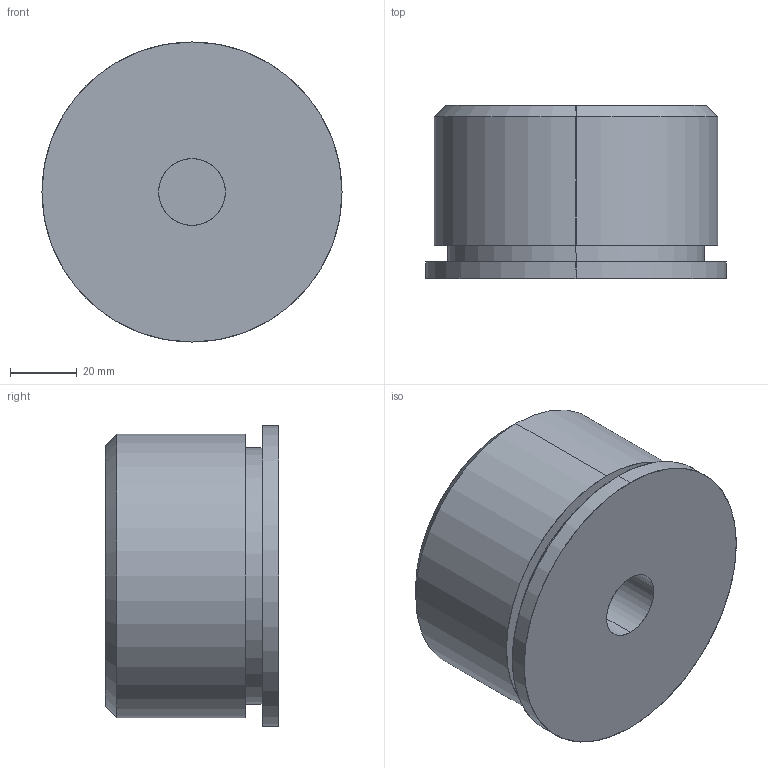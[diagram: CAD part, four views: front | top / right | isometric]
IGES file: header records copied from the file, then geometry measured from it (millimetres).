
Start section: SolidWorks IGES file using analytic representation for surfaces
Global section: file name: C:\Documents and Settings\ARGE\Desktop\yeni katalog tolgay düzenli\B kataloðu\261-5 burçlu rulo baþlýðý\export\261 908 517.IGS; native system: SolidWorks 2006 by SolidWorks Corporation; preprocessor: SolidWorks 2006 by SolidWorks Corporation; author: ARGE2; date: 060911.141345; units: millimetre
Bounding box: 90 x 52 x 90 mm (x, y, z)
Surface area: 49086.9 mm2 (no closed solid volume)
Topology: 0 solids, 0 shells, 40 faces, 958 edges, 958 vertices
Faces by surface type: bspline 26, revolution 14
